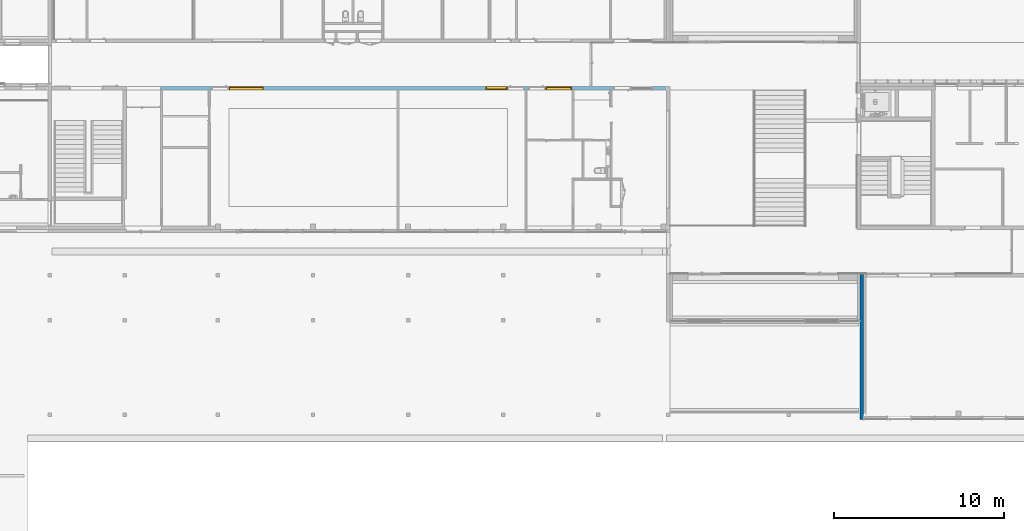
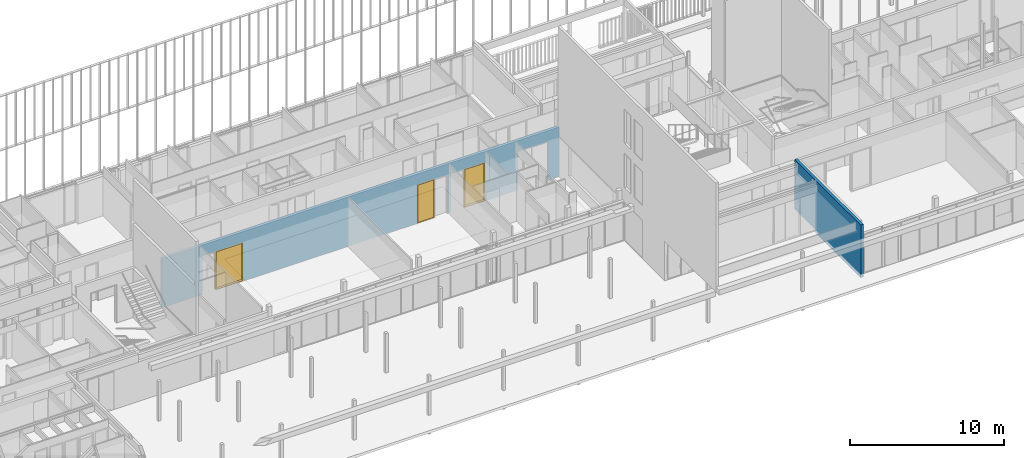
# One storey, part 218 of 240: 3 windows, 1 wall, 8 openings, plus 1 element that does not belong to this part.
"""IFC2X3 building model written with IfcOpenShell, lengths in centimetres."""

from ifc_helpers import new_model, entity, si_unit, converted_unit, derived_unit, direction, frame, frame_2d, origin, place, context, subcontext, project, spatial, polyline, rectangle, extrude, clip, bounded_halfspace, faceted_brep, source, transform, mapped, material, material_list, layer, layer_set, layer_usage, type_object, type_shapes, element, fill, save


model = new_model("IFC2X3")

# Units and contexts
model_context = context("Model", 3, precision=0.001, world=origin(), true_north=direction((6.12303176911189e-17, 1.0)))
body_context = subcontext(model_context, "Body", "Model", "MODEL_VIEW")
ifc_project = project(units=[si_unit("LENGTHUNIT", "METRE", prefix="CENTI"), si_unit("AREAUNIT", "SQUARE_METRE"), si_unit("VOLUMEUNIT", "CUBIC_METRE"), converted_unit("PLANEANGLEUNIT", "DEGREE", entity("IfcRatioMeasure", 0.0174532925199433), si_unit("PLANEANGLEUNIT", "RADIAN"), dimensions=[0, 0, 0, 0, 0, 0, 0]), si_unit("MASSUNIT", "GRAM", prefix="KILO"), derived_unit("MASSDENSITYUNIT", [(si_unit("MASSUNIT", "GRAM", prefix="KILO"), 1), (si_unit("LENGTHUNIT", "METRE"), -3)]), si_unit("TIMEUNIT", "SECOND"), si_unit("FREQUENCYUNIT", "HERTZ"), si_unit("THERMODYNAMICTEMPERATUREUNIT", "DEGREE_CELSIUS"), derived_unit("THERMALTRANSMITTANCEUNIT", [(si_unit("MASSUNIT", "GRAM", prefix="KILO"), 1), (si_unit("THERMODYNAMICTEMPERATUREUNIT", "KELVIN"), -1), (si_unit("TIMEUNIT", "SECOND"), -3)]), derived_unit("VOLUMETRICFLOWRATEUNIT", [(si_unit("LENGTHUNIT", "METRE"), 3), (si_unit("TIMEUNIT", "SECOND"), -1)]), si_unit("ELECTRICCURRENTUNIT", "AMPERE"), si_unit("ELECTRICVOLTAGEUNIT", "VOLT"), si_unit("POWERUNIT", "WATT"), si_unit("FORCEUNIT", "NEWTON", prefix="KILO"), si_unit("ILLUMINANCEUNIT", "LUX"), si_unit("LUMINOUSFLUXUNIT", "LUMEN"), si_unit("LUMINOUSINTENSITYUNIT", "CANDELA"), derived_unit("USERDEFINED", [(si_unit("MASSUNIT", "GRAM", prefix="KILO"), -1), (si_unit("LENGTHUNIT", "METRE"), -2), (si_unit("TIMEUNIT", "SECOND"), 3), (si_unit("LUMINOUSFLUXUNIT", "LUMEN"), 1)]), derived_unit("LINEARVELOCITYUNIT", [(si_unit("LENGTHUNIT", "METRE"), 1), (si_unit("TIMEUNIT", "SECOND"), -1)]), si_unit("PRESSUREUNIT", "PASCAL"), derived_unit("USERDEFINED", [(si_unit("LENGTHUNIT", "METRE"), -2), (si_unit("MASSUNIT", "GRAM", prefix="KILO"), 1), (si_unit("TIMEUNIT", "SECOND"), -2)])], contexts=[model_context])

# Site, building, storey
site_placement = place(None, frame((-2781.94577612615, 7442.24238424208, 0.0)))
site = spatial("IfcSite", under=ifc_project, at=site_placement, Name="Default", CompositionType="ELEMENT")
building_placement = place(site_placement, origin())
building = spatial("IfcBuilding", under=site, at=building_placement, CompositionType="ELEMENT")
storey_placement = place(building_placement, origin())
storey = spatial("IfcBuildingStorey", under=building, at=storey_placement, Name="N00 - COO", CompositionType="ELEMENT", Elevation=0.0)

# Wall
ifc_material_1 = material(Name="01 - Maçonnerie")
ifc_layer = layer(ifc_material_1, 20.0)
ifc_layer_set = layer_set([ifc_layer], Name="Mur de base:04 - Structure - béton - 20cm")
wall_type = type_object("IfcWallType", Name="Mur de base:04 - Structure - béton - 20cm", PredefinedType="STANDARD", material=ifc_layer_set)
wall_1_placement = place(building_placement, frame((-3639.49987968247, -3050.21349958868, -26.0), z_axis=(0.0, 0.0, 1.0), x_axis=(0.0, 1.0, 0.0)))
element("IfcWall", 1, at=wall_1_placement, inside=storey, type_object=wall_type, Name="Mur de base:04 - Structure - béton - 20cm", ObjectType="Mur de base:04 - Structure - béton - 20cm", context=body_context, shape_type="Brep", body=[
    faceted_brep([(860.056932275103, -10.0, 417.0), (840.056932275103, -10.0, 417.0), (0.0, -10.0, 417.0), (0.0, -10.0, 26.0), (0.961907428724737, -10.0, 26.0), (0.961907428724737, -10.0, 6.0), (0.0, -10.0, 6.0), (0.0, -10.0, 0.0), (33.900000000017, -10.0, 0.0), (33.900000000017, -10.0, 26.0), (840.056932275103, -10.0, 26.0), (860.056932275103, -10.0, 26.0), (0.0, 10.0, 417.0), (860.056932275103, 10.0, 417.0), (860.056932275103, 10.0, 26.0), (586.366932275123, 10.0, 26.0), (586.366932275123, 10.0, 0.0), (39.8999999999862, 10.0, 0.0), (0.0, 10.0, 0.0), (0.0, 10.0, 6.0), (0.961907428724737, 10.0, 6.0), (0.961907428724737, 10.0, 26.0), (0.0, 10.0, 26.0), (586.366932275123, -2.89557077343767, 0.0), (33.900000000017, -2.89557077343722, 0.0), (860.056932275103, 8.49999999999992, 417.0), (33.900000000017, -2.89557077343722, 26.0), (586.366932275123, -2.8955707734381, 26.0)], [[[0, 1, 2, 3, 4, 5, 6, 7, 8, 9, 10, 11]], [[12, 13, 14, 15, 16, 17, 18, 19, 20, 21, 22]], [[7, 18, 17, 16, 23, 24, 8]], [[2, 1, 0, 25, 13, 12]], [[18, 7, 6, 19]], [[13, 25, 0, 11, 14]], [[26, 27, 15, 14, 11, 10, 9]], [[24, 26, 9, 8]], [[27, 26, 24, 23]], [[27, 23, 16, 15]], [[5, 20, 19, 6]], [[21, 4, 3, 22]], [[20, 5, 4, 21]], [[2, 12, 22, 3]]]),
])

# Wall, openings, windows
ifc_layer_usage = layer_usage(ifc_layer_set, "AXIS2", "NEGATIVE", 10.0)
wall_2_placement = place(building_placement, frame((-7766.49987760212, -1100.0, 0.0)))
wall_2 = element("IfcWallStandardCase", 2, at=wall_2_placement, inside=storey, type_object=wall_type, material=ifc_layer_usage, Name="Mur de base:04 - Structure - béton - 20cm", ObjectType="Mur de base:04 - Structure - béton - 20cm", context=body_context, shape_type="Clipping", body=[
    clip(extrude(rectangle(XDim=2974.5, YDim=19.9999999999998, at=frame_2d((1487.25, -6.21724893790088e-14), x_axis=(-1.0, 0.0))), origin(), (0.0, 0.0, 1.0), 391.0), bounded_halfspace(frame((0.0, -10.0, 391.0), z_axis=(0.0, 0.0, -1.0), x_axis=(0.0, 1.0, 0.0)), True, frame((0.0, -10.0, 391.0)), polyline([(0.0, 0.0), (10.0, 0.0), (282.0, 0.0), (292.0, 0.0), (1392.0, 0.0), (1402.0, 0.0), (2145.25, 0.0), (2155.25, 0.0), (2422.0, 0.0), (2432.0, 0.0), (2647.0, 0.0), (2657.0, 0.0), (2974.5, 0.0), (2974.5, 20.0), (2539.0, 20.0), (2529.0, 20.0), (0.0, 20.0), (0.0, 0.0)]))),
])
opening_1_placement = place(wall_2_placement, origin())
element("IfcOpeningElement", 3, at=opening_1_placement, cuts=wall_2, Name="Mur de base:04 - Structure - béton - 20cm", ObjectType="Opening", context=body_context, shape_type="SweptSolid", body=[
    extrude(rectangle(XDim=306.0, YDim=130.000000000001, at=frame_2d((0.0, 4.33431068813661e-13), x_axis=(1.0, 0.0))), frame((2832.0, -25.2400000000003, 153.0), z_axis=(0.0, 1.0, 0.0), x_axis=(0.0, 0.0, 1.0)), (0.0, 0.0, 1.0), 50.48),
])
opening_2_placement = place(wall_2_placement, frame((2767.0, 10.0, 0.0)))
element("IfcOpeningElement", 4, at=opening_2_placement, cuts=wall_2, Name="Int. Simple:PV (0.93m x 3.00m):1", ObjectType="Opening", context=body_context, shape_type="SweptSolid", body=[
    extrude(rectangle(XDim=304.500000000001, YDim=99.9999999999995, at=frame_2d((152.250000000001, 49.9999999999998), x_axis=(1.0, 0.0))), frame((0.0, 0.0, 0.0), z_axis=(0.0, -1.0, 0.0), x_axis=(0.0, 0.0, 1.0)), (0.0, 0.0, 1.0), 20.0),
])
opening_3_placement = place(wall_2_placement, frame((2042.0, -10.0, 0.0)))
element("IfcOpeningElement", 5, at=opening_3_placement, cuts=wall_2, Name="Int. Simple:PV (0.93m x 3.00m):1", ObjectType="Opening", context=body_context, shape_type="SweptSolid", body=[
    extrude(rectangle(XDim=304.500000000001, YDim=99.9999999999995, at=frame_2d((152.250000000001, 49.9999999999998), x_axis=(1.0, 0.0))), frame((0.0, 0.0, 0.0), z_axis=(0.0, 1.0, 0.0), x_axis=(0.0, 0.0, 1.0)), (0.0, 0.0, 1.0), 20.0),
])
opening_4_placement = place(wall_2_placement, frame((302.0, -10.0, 0.0)))
element("IfcOpeningElement", 6, at=opening_4_placement, cuts=wall_2, Name="Int. Simple:PV (0.93m x 3.00m):1", ObjectType="Opening", context=body_context, shape_type="SweptSolid", body=[
    extrude(rectangle(XDim=304.500000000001, YDim=99.9999999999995, at=frame_2d((152.250000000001, 50.0), x_axis=(1.0, 0.0))), frame((0.0, 0.0, 0.0), z_axis=(0.0, 1.0, 0.0), x_axis=(0.0, 0.0, 1.0)), (0.0, 0.0, 1.0), 20.0),
])
opening_5_placement = place(wall_2_placement, frame((1912.0, -10.0, 0.0)))
opening_5 = element("IfcOpeningElement", 7, at=opening_5_placement, cuts=wall_2, Name="châssis intérieur vitré:châssis intérieur vitré (h=306):1", ObjectType="Opening", context=body_context, shape_type="SweptSolid", body=[
    extrude(rectangle(XDim=306.0, YDim=130.0, at=frame_2d((153.0, 65.0), x_axis=(1.0, 0.0))), frame((0.0, 0.0, 0.0), z_axis=(0.0, 1.0, 0.0), x_axis=(0.0, 0.0, 1.0)), (0.0, 0.0, 1.0), 20.0),
])
opening_6_placement = place(wall_2_placement, frame((607.0, 10.0, 0.0)))
opening_6 = element("IfcOpeningElement", 8, at=opening_6_placement, cuts=wall_2, Name="châssis intérieur vitré:châssis intérieur vitré (h=306):1", ObjectType="Opening", context=body_context, shape_type="SweptSolid", body=[
    extrude(rectangle(XDim=306.0, YDim=205.0, at=frame_2d((153.0, 102.5), x_axis=(1.0, 0.0))), frame((0.0, 0.0, 0.0), z_axis=(0.0, -1.0, 0.0), x_axis=(0.0, 0.0, 1.0)), (0.0, 0.0, 1.0), 20.0),
])
opening_7_placement = place(wall_2_placement, frame((2421.89839761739, 10.0, 0.0)))
opening_7 = element("IfcOpeningElement", 9, at=opening_7_placement, cuts=wall_2, Name="châssis intérieur vitré:châssis intérieur vitré (h=306):1", ObjectType="Opening", context=body_context, shape_type="SweptSolid", body=[
    extrude(rectangle(XDim=306.0, YDim=156.64839761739, at=frame_2d((153.0, 78.324198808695), x_axis=(1.0, 0.0))), frame((0.0, 0.0, 0.0), z_axis=(0.0, -1.0, 0.0), x_axis=(0.0, 0.0, 1.0)), (0.0, 0.0, 1.0), 20.0),
])
opening_8_placement = place(wall_2_placement, frame((2165.25, -10.0, 0.0)))
element("IfcOpeningElement", 10, at=opening_8_placement, cuts=wall_2, Name="Int. Simple:PV (0.93m x 3.00m):1", ObjectType="Opening", context=body_context, shape_type="SweptSolid", body=[
    extrude(rectangle(XDim=304.500000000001, YDim=99.9999999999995, at=frame_2d((152.250000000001, 50.0), x_axis=(1.0, 0.0))), frame((0.0, 0.0, 0.0), z_axis=(0.0, 1.0, 0.0), x_axis=(0.0, 0.0, 1.0)), (0.0, 0.0, 1.0), 20.0),
])
ifc_material_2 = material(Name="Verre")
ifc_material_3 = material(Name="huisserie bois")
ifc_material_list_1 = material_list([ifc_material_2, ifc_material_3])
ifc_material_list_2 = material_list([ifc_material_2, ifc_material_3])
window_style_1 = type_object("IfcWindowStyle", Name="châssis intérieur vitré (h=306)", ConstructionType="NOTDEFINED", OperationType="NOTDEFINED", ParameterTakesPrecedence=False, Sizeable=False, material=ifc_material_list_2)
shared_shape_1 = source(origin(), body_context, "Body", "Brep", [
    faceted_brep([(127.0, 5.0, 303.0), (127.0, 5.0, 3.0), (3.0, 5.0, 3.0), (3.0, 5.0, 303.0), (127.0, 2.0, 303.0), (127.0, 2.0, 3.0), (3.0, 2.0, 3.0), (3.0, 2.0, 303.0)], [[[0, 1, 2, 3]], [[1, 0, 4, 5]], [[2, 1, 5, 6]], [[3, 2, 6, 7]], [[4, 7, 6, 5]], [[0, 3, 7, 4]]]),
    faceted_brep([(127.0, 2.0, 303.0), (127.0, 0.0, 303.0), (127.0, 0.0, 3.0), (127.0, 2.0, 3.0), (125.0, 0.0, 5.0), (5.0, 0.0, 5.0), (5.0, 0.0, 301.0), (125.0, 0.0, 301.0), (3.0, 0.0, 303.0), (3.0, 0.0, 3.0), (3.0, 2.0, 3.0), (3.0, 2.0, 303.0), (125.0, 2.0, 301.0), (5.0, 2.0, 301.0), (5.0, 2.0, 5.0), (125.0, 2.0, 5.0)], [[[0, 1, 2, 3]], [[4, 5, 6, 7], [1, 8, 9, 2]], [[3, 2, 9, 10]], [[3, 10, 11, 0], [12, 13, 14, 15]], [[7, 12, 15, 4]], [[4, 15, 14, 5]], [[10, 9, 8, 11]], [[5, 14, 13, 6]], [[11, 8, 1, 0]], [[6, 13, 12, 7]]], outer=[[True], [False, True], [True], [True, False], [True], [True], [True], [True], [True], [True]]),
    faceted_brep([(125.0, 5.0, 301.0), (125.0, 20.0, 301.0), (125.0, 20.0, 5.0), (125.0, 5.0, 5.0), (130.0, 20.0, 0.0), (0.0, 20.0, 0.0), (0.0, 20.0, 306.0), (130.0, 20.0, 306.0), (5.0, 20.0, 301.0), (5.0, 20.0, 5.0), (5.0, 5.0, 5.0), (5.0, 5.0, 301.0), (127.0, 5.0, 303.0), (3.0, 5.0, 303.0), (3.0, 5.0, 3.0), (127.0, 5.0, 3.0), (127.0, 0.0, 303.0), (127.0, 0.0, 3.0), (3.0, 0.0, 3.0), (3.0, 0.0, 303.0), (130.0, 0.0, 306.0), (0.0, 0.0, 306.0), (0.0, 0.0, 0.0), (130.0, 0.0, 0.0)], [[[0, 1, 2, 3]], [[4, 5, 6, 7], [1, 8, 9, 2]], [[3, 2, 9, 10]], [[3, 10, 11, 0], [12, 13, 14, 15]], [[16, 12, 15, 17]], [[17, 15, 14, 18]], [[17, 18, 19, 16], [20, 21, 22, 23]], [[7, 20, 23, 4]], [[4, 23, 22, 5]], [[10, 9, 8, 11]], [[18, 14, 13, 19]], [[5, 22, 21, 6]], [[11, 8, 1, 0]], [[19, 13, 12, 16]], [[6, 21, 20, 7]]], outer=[[True], [True, False], [True], [False, True], [True], [True], [False, True], [True], [True], [True], [True], [True], [True], [True], [True]]),
])
type_shapes(window_style_1, [shared_shape_1])
window_1_placement = place(opening_5_placement, origin())
window_1 = element("IfcWindow", 11, at=window_1_placement, inside=storey, type_object=window_style_1, material=ifc_material_list_1, Name="châssis intérieur vitré:châssis intérieur vitré (h=306)", ObjectType="châssis intérieur vitré:châssis intérieur vitré (h=306)", OverallHeight=306.0, OverallWidth=130.0, context=body_context, shape_type="MappedRepresentation", body=[
    mapped(shared_shape_1, transform((0.0, 0.0, 0.0), scale=1.0)),
])
fill(opening_5, window_1)
ifc_material_list_3 = material_list([ifc_material_2, ifc_material_3])
ifc_material_list_4 = material_list([ifc_material_2, ifc_material_3])
window_style_2 = type_object("IfcWindowStyle", Name="châssis intérieur vitré (h=306)", ConstructionType="NOTDEFINED", OperationType="NOTDEFINED", ParameterTakesPrecedence=False, Sizeable=False, material=ifc_material_list_4)
shared_shape_2 = source(origin(), body_context, "Body", "Brep", [
    faceted_brep([(202.0, 5.0, 303.0), (202.0, 5.0, 3.0), (3.0, 5.0, 3.0), (3.0, 5.0, 303.0), (202.0, 2.0, 303.0), (202.0, 2.0, 3.0), (3.0, 2.0, 3.0), (3.0, 2.0, 303.0)], [[[0, 1, 2, 3]], [[1, 0, 4, 5]], [[2, 1, 5, 6]], [[3, 2, 6, 7]], [[4, 7, 6, 5]], [[0, 3, 7, 4]]]),
    faceted_brep([(202.0, 2.0, 303.0), (202.0, 0.0, 303.0), (202.0, 0.0, 3.0), (202.0, 2.0, 3.0), (200.0, 0.0, 5.0), (5.0, 0.0, 5.0), (5.0, 0.0, 301.0), (200.0, 0.0, 301.0), (3.0, 0.0, 303.0), (3.0, 0.0, 3.0), (3.0, 2.0, 3.0), (3.0, 2.0, 303.0), (200.0, 2.0, 301.0), (5.0, 2.0, 301.0), (5.0, 2.0, 5.0), (200.0, 2.0, 5.0)], [[[0, 1, 2, 3]], [[4, 5, 6, 7], [1, 8, 9, 2]], [[3, 2, 9, 10]], [[3, 10, 11, 0], [12, 13, 14, 15]], [[7, 12, 15, 4]], [[4, 15, 14, 5]], [[10, 9, 8, 11]], [[5, 14, 13, 6]], [[11, 8, 1, 0]], [[6, 13, 12, 7]]], outer=[[True], [False, True], [True], [True, False], [True], [True], [True], [True], [True], [True]]),
    faceted_brep([(200.0, 5.0, 301.0), (200.0, 20.0, 301.0), (200.0, 20.0, 5.0), (200.0, 5.0, 5.0), (205.0, 20.0, 0.0), (0.0, 20.0, 0.0), (0.0, 20.0, 306.0), (205.0, 20.0, 306.0), (5.0, 20.0, 301.0), (5.0, 20.0, 5.0), (5.0, 5.0, 5.0), (5.0, 5.0, 301.0), (202.0, 5.0, 303.0), (3.0, 5.0, 303.0), (3.0, 5.0, 3.0), (202.0, 5.0, 3.0), (202.0, 0.0, 303.0), (202.0, 0.0, 3.0), (3.0, 0.0, 3.0), (3.0, 0.0, 303.0), (205.0, 0.0, 306.0), (0.0, 0.0, 306.0), (0.0, 0.0, 0.0), (205.0, 0.0, 0.0)], [[[0, 1, 2, 3]], [[4, 5, 6, 7], [1, 8, 9, 2]], [[3, 2, 9, 10]], [[3, 10, 11, 0], [12, 13, 14, 15]], [[16, 12, 15, 17]], [[17, 15, 14, 18]], [[17, 18, 19, 16], [20, 21, 22, 23]], [[7, 20, 23, 4]], [[4, 23, 22, 5]], [[10, 9, 8, 11]], [[18, 14, 13, 19]], [[5, 22, 21, 6]], [[11, 8, 1, 0]], [[19, 13, 12, 16]], [[6, 21, 20, 7]]], outer=[[True], [True, False], [True], [False, True], [True], [True], [False, True], [True], [True], [True], [True], [True], [True], [True], [True]]),
])
type_shapes(window_style_2, [shared_shape_2])
window_2_placement = place(opening_6_placement, frame((0.0, 0.0, 0.0), z_axis=(0.0, 0.0, 1.0), x_axis=(-1.0, 0.0, 0.0)))
window_2 = element("IfcWindow", 12, at=window_2_placement, inside=storey, type_object=window_style_2, material=ifc_material_list_3, Name="châssis intérieur vitré:châssis intérieur vitré (h=306)", ObjectType="châssis intérieur vitré:châssis intérieur vitré (h=306)", OverallHeight=306.0, OverallWidth=205.0, context=body_context, shape_type="MappedRepresentation", body=[
    mapped(shared_shape_2, transform((0.0, 0.0, 0.0), scale=1.0)),
])
fill(opening_6, window_2)
ifc_material_list_5 = material_list([ifc_material_2, ifc_material_3])
ifc_material_list_6 = material_list([ifc_material_2, ifc_material_3])
window_style_3 = type_object("IfcWindowStyle", Name="châssis intérieur vitré (h=306)", ConstructionType="NOTDEFINED", OperationType="NOTDEFINED", ParameterTakesPrecedence=False, Sizeable=False, material=ifc_material_list_6)
shared_shape_3 = source(origin(), body_context, "Body", "Brep", [
    faceted_brep([(153.64839761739, 5.0, 303.0), (153.64839761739, 5.0, 3.0), (3.0, 5.0, 3.0), (3.0, 5.0, 303.0), (153.64839761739, 2.0, 303.0), (153.64839761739, 2.0, 3.0), (3.0, 2.0, 3.0), (3.0, 2.0, 303.0)], [[[0, 1, 2, 3]], [[1, 0, 4, 5]], [[2, 1, 5, 6]], [[3, 2, 6, 7]], [[4, 7, 6, 5]], [[0, 3, 7, 4]]]),
    faceted_brep([(153.64839761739, 2.0, 303.0), (153.64839761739, 0.0, 303.0), (153.64839761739, 0.0, 3.0), (153.64839761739, 2.0, 3.0), (151.64839761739, 0.0, 5.0), (5.0, 0.0, 5.0), (5.0, 0.0, 301.0), (151.64839761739, 0.0, 301.0), (3.0, 0.0, 303.0), (3.0, 0.0, 3.0), (3.0, 2.0, 3.0), (3.0, 2.0, 303.0), (151.64839761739, 2.0, 301.0), (5.0, 2.0, 301.0), (5.0, 2.0, 5.0), (151.64839761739, 2.0, 5.0)], [[[0, 1, 2, 3]], [[4, 5, 6, 7], [1, 8, 9, 2]], [[3, 2, 9, 10]], [[3, 10, 11, 0], [12, 13, 14, 15]], [[7, 12, 15, 4]], [[4, 15, 14, 5]], [[10, 9, 8, 11]], [[5, 14, 13, 6]], [[11, 8, 1, 0]], [[6, 13, 12, 7]]], outer=[[True], [False, True], [True], [True, False], [True], [True], [True], [True], [True], [True]]),
    faceted_brep([(151.64839761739, 5.0, 301.0), (151.64839761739, 20.0, 301.0), (151.64839761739, 20.0, 5.0), (151.64839761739, 5.0, 5.0), (156.64839761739, 20.0, 0.0), (0.0, 20.0, 0.0), (0.0, 20.0, 306.0), (156.64839761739, 20.0, 306.0), (5.0, 20.0, 301.0), (5.0, 20.0, 5.0), (5.0, 5.0, 5.0), (5.0, 5.0, 301.0), (153.64839761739, 5.0, 303.0), (3.0, 5.0, 303.0), (3.0, 5.0, 3.0), (153.64839761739, 5.0, 3.0), (153.64839761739, 0.0, 303.0), (153.64839761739, 0.0, 3.0), (3.0, 0.0, 3.0), (3.0, 0.0, 303.0), (156.64839761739, 0.0, 306.0), (0.0, 0.0, 306.0), (0.0, 0.0, 0.0), (156.64839761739, 0.0, 0.0)], [[[0, 1, 2, 3]], [[4, 5, 6, 7], [1, 8, 9, 2]], [[3, 2, 9, 10]], [[3, 10, 11, 0], [12, 13, 14, 15]], [[16, 12, 15, 17]], [[17, 15, 14, 18]], [[17, 18, 19, 16], [20, 21, 22, 23]], [[7, 20, 23, 4]], [[4, 23, 22, 5]], [[10, 9, 8, 11]], [[18, 14, 13, 19]], [[5, 22, 21, 6]], [[11, 8, 1, 0]], [[19, 13, 12, 16]], [[6, 21, 20, 7]]], outer=[[True], [True, False], [True], [False, True], [True], [True], [False, True], [True], [True], [True], [True], [True], [True], [True], [True]]),
])
type_shapes(window_style_3, [shared_shape_3])
window_3_placement = place(opening_7_placement, frame((0.0, 0.0, 0.0), z_axis=(0.0, 0.0, 1.0), x_axis=(-1.0, 0.0, 0.0)))
window_3 = element("IfcWindow", 13, at=window_3_placement, inside=storey, type_object=window_style_3, material=ifc_material_list_5, Name="châssis intérieur vitré:châssis intérieur vitré (h=306)", ObjectType="châssis intérieur vitré:châssis intérieur vitré (h=306)", OverallHeight=306.0, OverallWidth=156.64839761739, context=body_context, shape_type="MappedRepresentation", body=[
    mapped(shared_shape_3, transform((0.0, 0.0, 0.0), scale=1.0)),
])
fill(opening_7, window_3)

save(model, "model.ifc")
